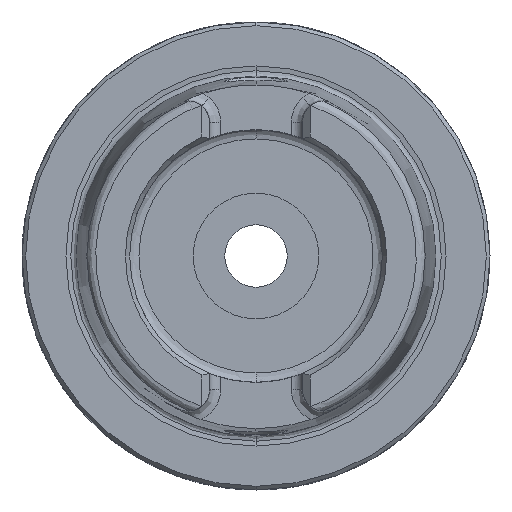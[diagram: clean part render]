
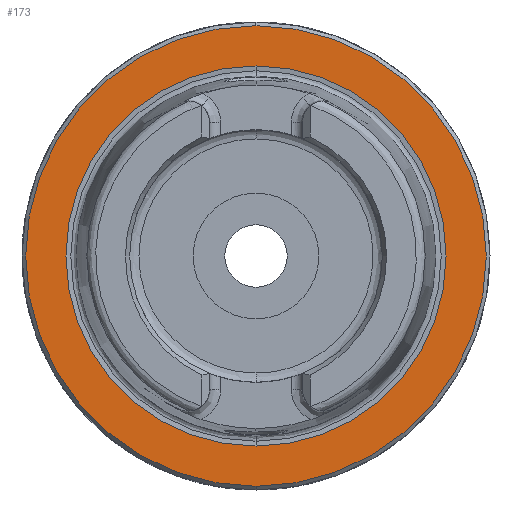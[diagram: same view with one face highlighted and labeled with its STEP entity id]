
A CAD part, left-side view. The second image highlights one B-rep face of the part: STEP entity #173.
In plain terms, the highlighted planar face has unit normal (-1, 0, 0).
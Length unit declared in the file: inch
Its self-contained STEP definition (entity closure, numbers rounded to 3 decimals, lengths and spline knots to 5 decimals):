
#110 = VERTEX_POINT ( 'NONE', #6467 ) ;
#164 = DIRECTION ( 'NONE',  ( 1., 0., 0. ) ) ;
#173 = ADVANCED_FACE ( 'NONE', ( #3820, #2572 ), #1964, .T. ) ;
#463 = CARTESIAN_POINT ( 'NONE',  ( 0., 0., 0. ) ) ;
#568 = DIRECTION ( 'NONE',  ( 0., 0., 1. ) ) ;
#657 = EDGE_LOOP ( 'NONE', ( #5835, #7304 ) ) ;
#757 = EDGE_CURVE ( 'NONE', #8029, #110, #6515, .T. ) ;
#972 = AXIS2_PLACEMENT_3D ( 'NONE', #463, #5763, #4056 ) ;
#1136 = CARTESIAN_POINT ( 'NONE',  ( 0., 1.22047, 0. ) ) ;
#1327 = DIRECTION ( 'NONE',  ( 1., 0., 0. ) ) ;
#1624 = EDGE_LOOP ( 'NONE', ( #5376, #6744 ) ) ;
#1866 = DIRECTION ( 'NONE',  ( -1., 0., 0. ) ) ;
#1922 = CIRCLE ( 'NONE', #2489, 1.0074 ) ;
#1964 = PLANE ( 'NONE',  #4855 ) ;
#2215 = EDGE_CURVE ( 'NONE', #110, #8029, #5000, .T. ) ;
#2489 = AXIS2_PLACEMENT_3D ( 'NONE', #4063, #5777, #7785 ) ;
#2572 = FACE_OUTER_BOUND ( 'NONE', #657, .T. ) ;
#2802 = AXIS2_PLACEMENT_3D ( 'NONE', #6645, #164, #3361 ) ;
#3032 = CARTESIAN_POINT ( 'NONE',  ( 0., 0., -1.0074 ) ) ;
#3328 = CARTESIAN_POINT ( 'NONE',  ( 0., 0., 0. ) ) ;
#3361 = DIRECTION ( 'NONE',  ( 0., 0., -1. ) ) ;
#3820 = FACE_BOUND ( 'NONE', #1624, .T. ) ;
#3934 = CARTESIAN_POINT ( 'NONE',  ( 0., 0., 1.0074 ) ) ;
#4056 = DIRECTION ( 'NONE',  ( 0., 0., 1. ) ) ;
#4063 = CARTESIAN_POINT ( 'NONE',  ( 0., 0., 0. ) ) ;
#4855 = AXIS2_PLACEMENT_3D ( 'NONE', #1136, #1866, #568 ) ;
#5000 = CIRCLE ( 'NONE', #2802, 1.22047 ) ;
#5018 = EDGE_CURVE ( 'NONE', #8216, #7372, #1922, .T. ) ;
#5279 = EDGE_CURVE ( 'NONE', #7372, #8216, #6374, .T. ) ;
#5376 = ORIENTED_EDGE ( 'NONE', *, *, #5018, .T. ) ;
#5763 = DIRECTION ( 'NONE',  ( 1., 0., 0. ) ) ;
#5777 = DIRECTION ( 'NONE',  ( 1., 0., 0. ) ) ;
#5835 = ORIENTED_EDGE ( 'NONE', *, *, #2215, .F. ) ;
#6374 = CIRCLE ( 'NONE', #972, 1.0074 ) ;
#6467 = CARTESIAN_POINT ( 'NONE',  ( 0., 0., -1.22047 ) ) ;
#6515 = CIRCLE ( 'NONE', #7078, 1.22047 ) ;
#6645 = CARTESIAN_POINT ( 'NONE',  ( 0., 0., 0. ) ) ;
#6744 = ORIENTED_EDGE ( 'NONE', *, *, #5279, .T. ) ;
#7078 = AXIS2_PLACEMENT_3D ( 'NONE', #3328, #1327, #7885 ) ;
#7304 = ORIENTED_EDGE ( 'NONE', *, *, #757, .F. ) ;
#7372 = VERTEX_POINT ( 'NONE', #3032 ) ;
#7785 = DIRECTION ( 'NONE',  ( 0., 0., 1. ) ) ;
#7885 = DIRECTION ( 'NONE',  ( 0., 0., -1. ) ) ;
#8029 = VERTEX_POINT ( 'NONE', #8260 ) ;
#8216 = VERTEX_POINT ( 'NONE', #3934 ) ;
#8260 = CARTESIAN_POINT ( 'NONE',  ( 0., 0., 1.22047 ) ) ;
